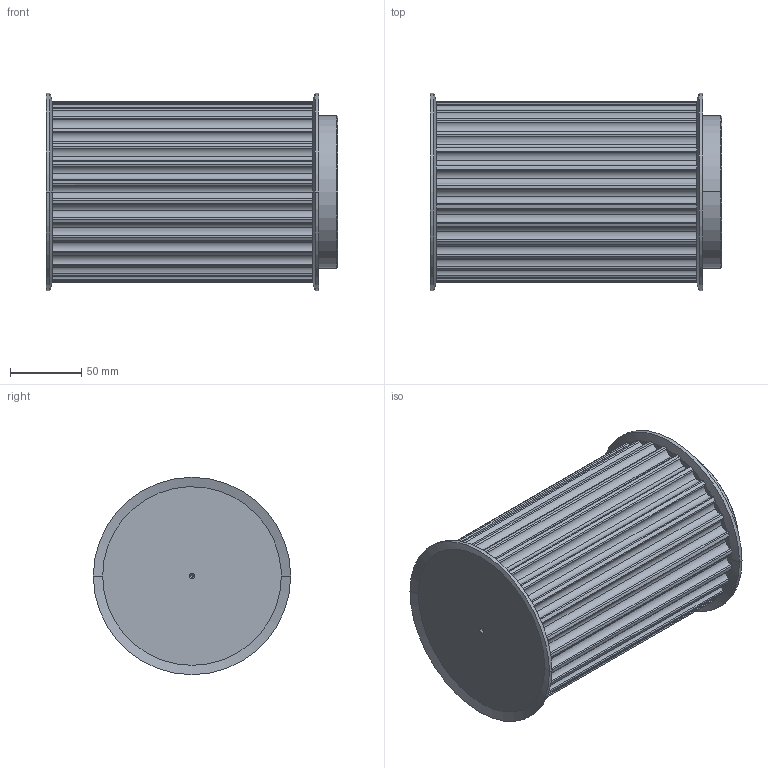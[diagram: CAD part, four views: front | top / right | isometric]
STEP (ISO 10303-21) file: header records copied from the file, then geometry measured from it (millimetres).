
FILE_DESCRIPTION(('STEP AP203'),'1');
FILE_NAME('29_-_14_m_170.stp','2022-04-28T11:34:28',('TraceParts'),('TraceParts S.A.'),'Spatial InterOp 3D',' ',' ');
FILE_SCHEMA(('CONFIG_CONTROL_DESIGN'));
Length unit declared in the file: millimetre
Products named in the file (1): 1
Bounding box: 203.74 x 138 x 138 mm (x, y, z)
Volume: 2319942.7 mm3; surface area: 137584.5 mm2
Topology: 1 solids, 1 shells, 234 faces, 679 edges, 446 vertices
Faces by surface type: cylinder 155, plane 61, cone 18
Entity records: 8745 total; most frequent: CARTESIAN_POINT 2400, DIRECTION 1415, ORIENTED_EDGE 1350, EDGE_CURVE 675, AXIS2_PLACEMENT_3D 621, VERTEX_POINT 446, CIRCLE 386, EDGE_LOOP 237
